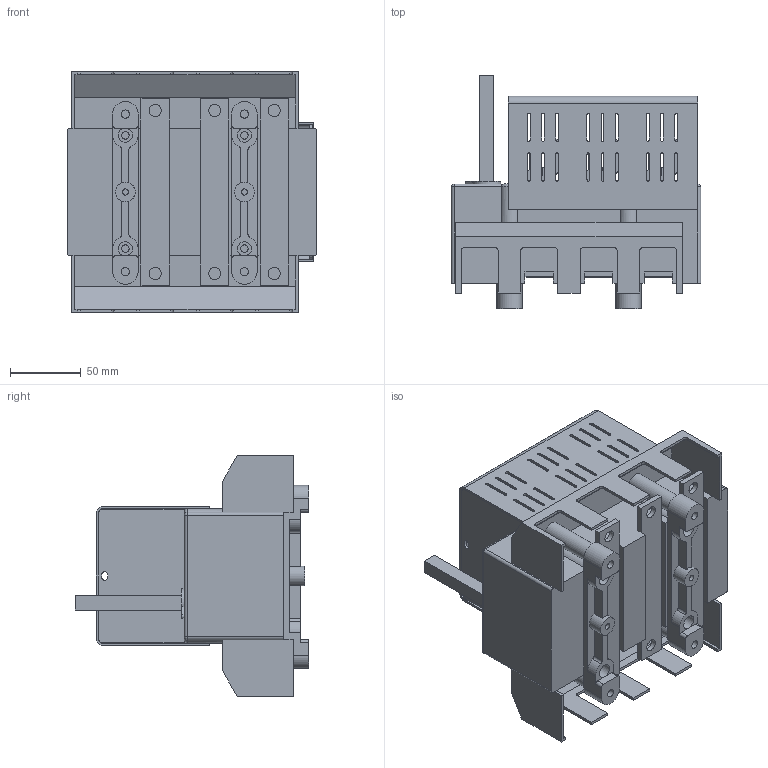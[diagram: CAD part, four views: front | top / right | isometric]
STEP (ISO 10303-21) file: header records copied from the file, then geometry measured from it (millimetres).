
FILE_DESCRIPTION(/* description */ (''),/* implementation_level */ '2;1');
FILE_NAME(/* name */ 'RAB 00 P3 z oslona zaciskow.stp',/* time_stamp */ '2021-08-19T11:03:20+02:00',/* author */ (''),/* organization */ (''),/* preprocessor_version */ 'ST-DEVELOPER v18.1',/* originating_system */ 'SIEMENS PLM Software NX 1965',/* authorisation */ '');
FILE_SCHEMA (('AUTOMOTIVE_DESIGN { 1 0 10303 214 3 1 1 1 }'));
Length unit declared in the file: millimetre
Products named in the file (1): RAB 00 P3 z oslona zaciskow_stp
Bounding box: 176 x 165 x 169.8 mm (x, y, z)
Volume: 1319396.5 mm3; surface area: 277120.6 mm2
Topology: 1 solids, 1 shells, 918 faces, 2638 edges, 1726 vertices
Faces by surface type: plane 598, cylinder 312, torus 4, sphere 4
Full cylindrical faces by diameter (mm): 2.7 x4, 4.3 x2, 5 x6, 5.3 x4, 5.8 x4, 8.5 x6, 10 x12, 13 x4, 14 x2
Entity records: 29726 total; most frequent: CARTESIAN_POINT 5225, ORIENTED_EDGE 5100, DIRECTION 5024, EDGE_CURVE 2550, LINE 1878, VECTOR 1878, VERTEX_POINT 1686, AXIS2_PLACEMENT_3D 1573
